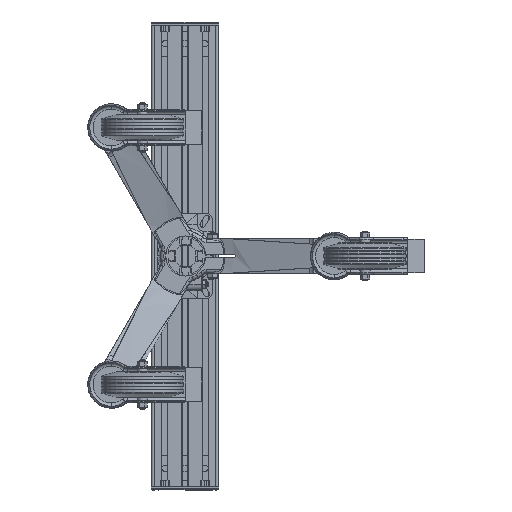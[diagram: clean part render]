
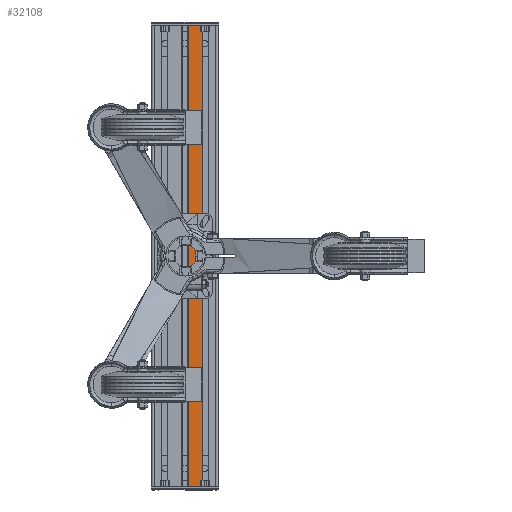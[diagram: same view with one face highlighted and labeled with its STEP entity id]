
A CAD part, front view. The second image highlights one B-rep face of the part: STEP entity #32108.
In plain terms, the highlighted planar face has unit normal (0, -1, 0).
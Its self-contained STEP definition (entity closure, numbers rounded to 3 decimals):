
#24891 = CARTESIAN_POINT ( 'NONE',  ( 0., -14., -4.75 ) ) ;
#24896 = CARTESIAN_POINT ( 'NONE',  ( 0., -14., -26.25 ) ) ;
#24963 = LINE ( 'NONE', #24968, #24967 ) ;
#24967 = VECTOR ( 'NONE', #25076, 1000. ) ;
#24968 = CARTESIAN_POINT ( 'NONE',  ( 701., -14., -4.75 ) ) ;
#25029 = CARTESIAN_POINT ( 'NONE',  ( 701., -14., -26.25 ) ) ;
#25049 = CARTESIAN_POINT ( 'NONE',  ( 701., -14., -4.75 ) ) ;
#25076 = DIRECTION ( 'NONE',  ( -1., 0., 0. ) ) ;
#25173 = DIRECTION ( 'NONE',  ( -1., 0., 0. ) ) ;
#25175 = CARTESIAN_POINT ( 'NONE',  ( 701., -14., -26.25 ) ) ;
#25182 = PLANE ( 'NONE',  #25192 ) ;
#25192 = AXIS2_PLACEMENT_3D ( 'NONE', #25303, #25300, #25288 ) ;
#25231 = LINE ( 'NONE', #25175, #25304 ) ;
#25240 = LINE ( 'NONE', #25352, #25350 ) ;
#25280 = DIRECTION ( 'NONE',  ( 0., 0., -1. ) ) ;
#25281 = VECTOR ( 'NONE', #25280, 1000. ) ;
#25283 = CARTESIAN_POINT ( 'NONE',  ( 701., -14., -26.25 ) ) ;
#25284 = LINE ( 'NONE', #25283, #25281 ) ;
#25288 = DIRECTION ( 'NONE',  ( 0., 0., 1. ) ) ;
#25300 = DIRECTION ( 'NONE',  ( 0., 1., 0. ) ) ;
#25303 = CARTESIAN_POINT ( 'NONE',  ( 701., -14., -26.25 ) ) ;
#25304 = VECTOR ( 'NONE', #25173, 1000. ) ;
#25306 = FACE_OUTER_BOUND ( 'NONE', #32118, .T. ) ;
#25349 = DIRECTION ( 'NONE',  ( 0., 0., -1. ) ) ;
#25350 = VECTOR ( 'NONE', #25349, 1000. ) ;
#25352 = CARTESIAN_POINT ( 'NONE',  ( 0., -14., -26.25 ) ) ;
#32042 = VERTEX_POINT ( 'NONE', #25029 ) ;
#32043 = VERTEX_POINT ( 'NONE', #24896 ) ;
#32052 = ORIENTED_EDGE ( 'NONE', *, *, #32066, .T. ) ;
#32058 = VERTEX_POINT ( 'NONE', #24891 ) ;
#32066 = EDGE_CURVE ( 'NONE', #32078, #32058, #24963, .T. ) ;
#32078 = VERTEX_POINT ( 'NONE', #25049 ) ;
#32104 = EDGE_CURVE ( 'NONE', #32042, #32043, #25231, .T. ) ;
#32108 = ADVANCED_FACE ( 'NONE', ( #25306 ), #25182, .F. ) ;
#32110 = ORIENTED_EDGE ( 'NONE', *, *, #32104, .F. ) ;
#32111 = EDGE_CURVE ( 'NONE', #32078, #32042, #25284, .T. ) ;
#32113 = ORIENTED_EDGE ( 'NONE', *, *, #32111, .F. ) ;
#32117 = ORIENTED_EDGE ( 'NONE', *, *, #32121, .T. ) ;
#32118 = EDGE_LOOP ( 'NONE', ( #32117, #32110, #32113, #32052 ) ) ;
#32121 = EDGE_CURVE ( 'NONE', #32058, #32043, #25240, .T. ) ;
